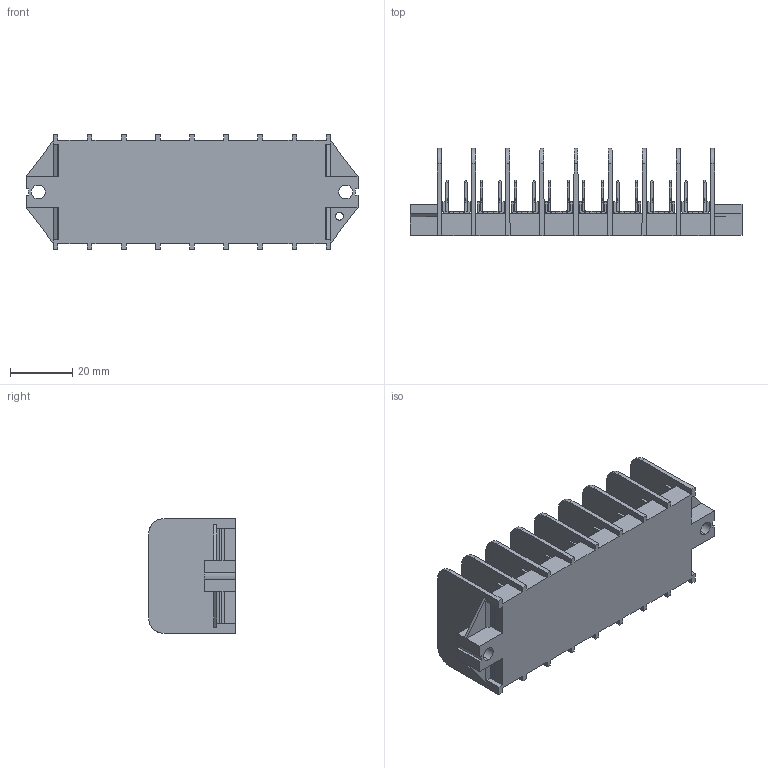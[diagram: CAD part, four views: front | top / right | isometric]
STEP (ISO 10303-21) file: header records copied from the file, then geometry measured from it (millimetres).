
FILE_DESCRIPTION (( 'STEP AP203' ), '1' );
FILE_NAME ('308-PA-102-08.STEP', '2018-05-23T21:34:00', ( '' ), ( '' ), 'SwSTEP 2.0', 'SolidWorks 2016', '' );
FILE_SCHEMA (( 'CONFIG_CONTROL_DESIGN' ));
Length unit declared in the file: millimetre
Products named in the file (1): 308-PA-102-08
Bounding box: 107 x 28 x 37 mm (x, y, z)
Volume: 33987.8 mm3; surface area: 30989.4 mm2
Topology: 1 solids, 1 shells, 2098 faces, 5980 edges, 3844 vertices
Faces by surface type: plane 1368, cylinder 714, bspline 16
Entity records: 70141 total; most frequent: CARTESIAN_POINT 15247, ORIENTED_EDGE 11960, DIRECTION 10846, EDGE_CURVE 5980, VECTOR 4504, LINE 4504, VERTEX_POINT 3844, AXIS2_PLACEMENT_3D 3171
